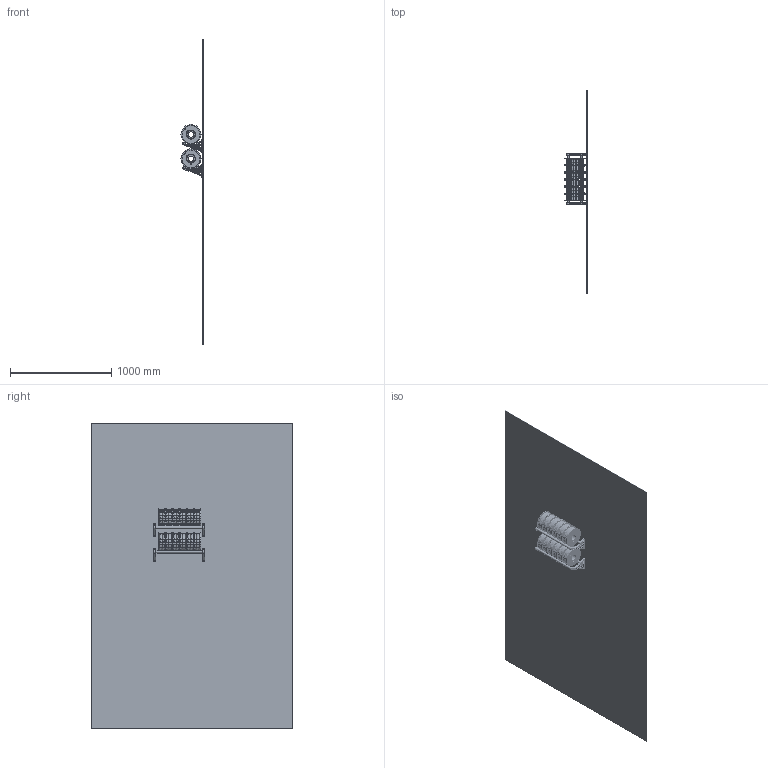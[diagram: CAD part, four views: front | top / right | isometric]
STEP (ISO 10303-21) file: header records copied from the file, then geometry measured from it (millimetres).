
FILE_DESCRIPTION(/* description */ (''),/* implementation_level */ '2;1');
FILE_NAME(/* name */ 'FilamentSpoolRack v3.step',/* time_stamp */ '2025-09-30T13:33:33+02:00',/* author */ (''),/* organization */ (''),/* preprocessor_version */ 'ST-DEVELOPER v20.1',/* originating_system */ 'Autodesk Translation Framework v14.17.0.0',/* authorisation */ '');
FILE_SCHEMA (('AUTOMOTIVE_DESIGN { 1 0 10303 214 3 1 1 }'));
Products named in the file (1): FilamentSpoolRack
Bounding box: 218.5 x 1991.55 x 3018.58 mm (x, y, z)
Volume: 34568402 mm3; surface area: 15416964 mm2
Topology: 417 solids, 417 shells, 2064 faces, 5134 edges, 3156 vertices
Faces by surface type: plane 862, torus 792, cylinder 402, cone 8
Full cylindrical faces by diameter (mm): 5 x10, 6 x192, 23.8 x4, 24 x8, 54 x24, 82 x12, 88 x12, 199 x24
Entity records: 64163 total; most frequent: DIRECTION 11660, CARTESIAN_POINT 10363, ORIENTED_EDGE 10268, EDGE_CURVE 5134, AXIS2_PLACEMENT_3D 4465, VERTEX_POINT 3156, EDGE_LOOP 2880, LINE 2730
